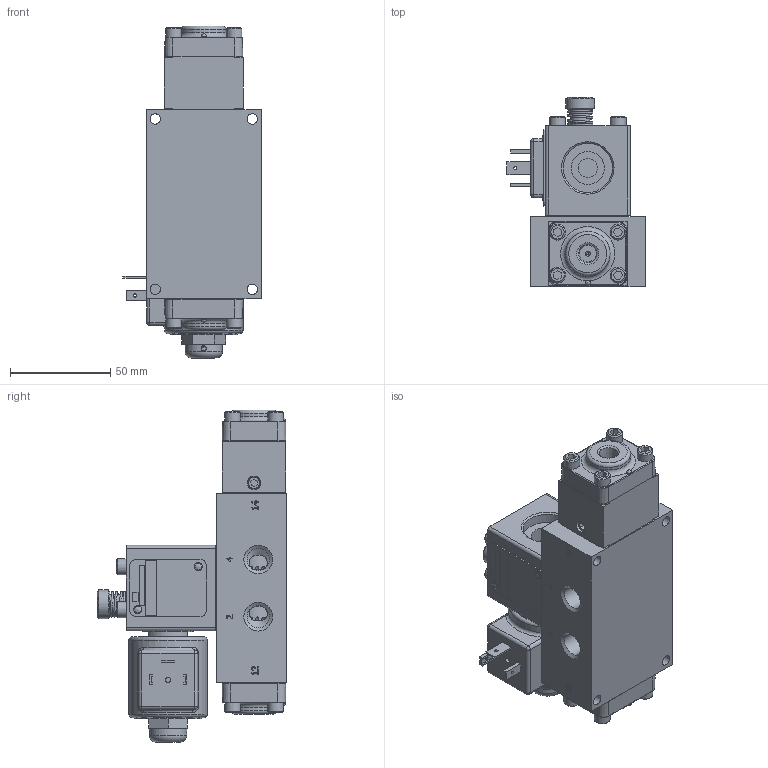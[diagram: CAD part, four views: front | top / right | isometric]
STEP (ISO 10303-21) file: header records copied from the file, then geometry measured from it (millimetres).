
FILE_DESCRIPTION(/* description */ (''),/* implementation_level */ '2;1');
FILE_NAME(/* name */ 'SR2EDOPLQ.stp',/* time_stamp */ '2025-03-03T07:14:10-05:00',/* author */ ('rmckenna'),/* organization */ (''),/* preprocessor_version */ 'ST-DEVELOPER v20',/* originating_system */ 'Autodesk Inventor 2024',/* authorisation */ '');
FILE_SCHEMA (('AUTOMOTIVE_DESIGN { 1 0 10303 214 3 1 1 }'));
Products named in the file (1): Part61
Bounding box: 68.87 x 94.56 x 165.48 mm (x, y, z)
Volume: 351488.7 mm3; surface area: 99153.4 mm2
Topology: 3 solids, 37 shells, 1659 faces, 4000 edges, 2549 vertices
Faces by surface type: plane 784, cylinder 309, cone 306, bspline 139, torus 113, sphere 8
Full cylindrical faces by diameter (mm): 1.016 x1, 1.6 x3, 2.07 x2, 2.261 x2, 2.362 x2, 2.381 x3, 2.54 x1, 2.778 x2, 3.048 x4, 3.175 x3, 3.302 x1, 3.683 x12, 3.912 x1, 3.962 x1, 4.366 x8, 4.826 x16, 4.978 x1, 5.156 x16, 5.159 x9, 5.537 x5, 5.944 x1, 6.629 x1, 7.938 x12, 7.95 x1, 9.474 x4, 9.525 x2, 9.922 x2, 10.973 x2, 11.113 x5, 11.303 x2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
Entity records: 55585 total; most frequent: CARTESIAN_POINT 15717, ORIENTED_EDGE 7944, DIRECTION 7590, EDGE_CURVE 3972, AXIS2_PLACEMENT_3D 2753, VERTEX_POINT 2549, LINE 2084, VECTOR 2084
